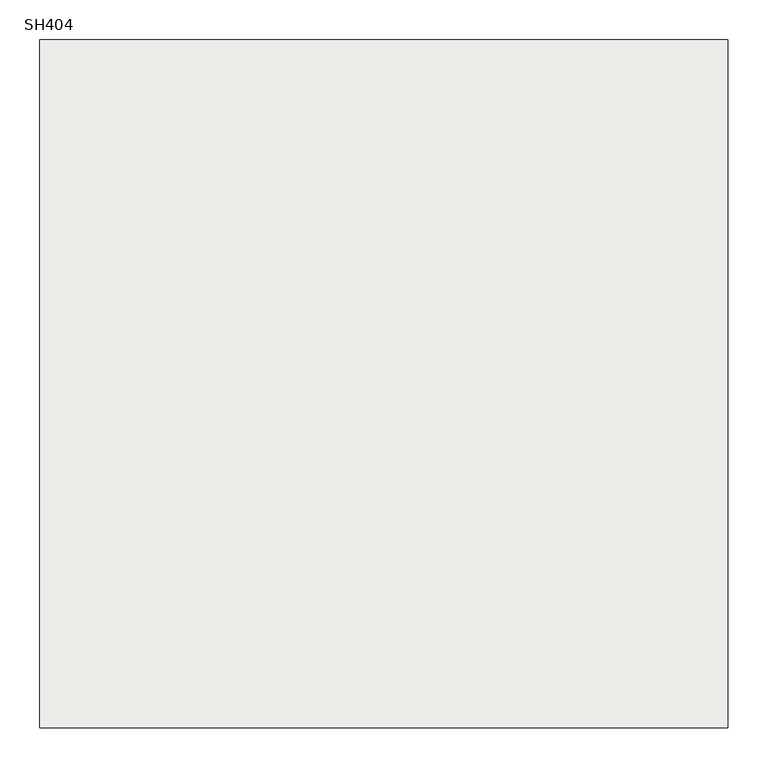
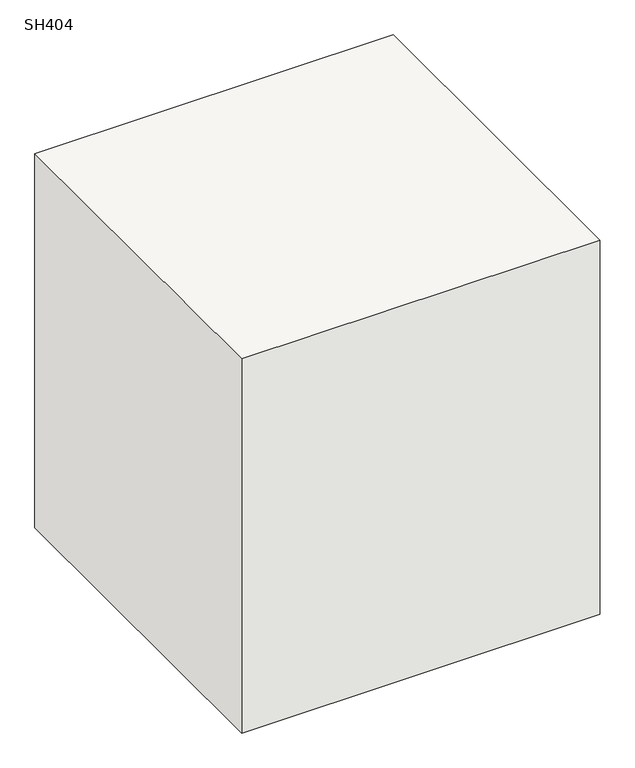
"""IFC4 building model written with IfcOpenShell, lengths in millimetres: slab geometry, 柱形_SH : SH404."""

from ifc_helpers import new_model, si_unit, frame, origin, place, context, project, spatial, polyline, outline, extrude, source, transform, mapped, element, save


def sh404_aaa08fc3(model_context):
    return source(origin(), model_context, "Body", "SweptSolid", [
        extrude(outline(polyline([(430.0, 430.0), (430.0, -430.0), (-430.0, -430.0), (-430.0, 430.0), (430.0, 430.0)])), frame((0.0, 0.0, -950.0), z_axis=(0.0, 0.0, 1.0), x_axis=(1.0, 0.0, 0.0)), (0.0, 0.0, 1.0), 950.0),
    ])


if __name__ == "__main__":
    model = new_model("IFC4")
    model_context = context("Model", 3, world=origin())
    ifc_project = project(units=[si_unit("LENGTHUNIT", "METRE", prefix="MILLI")], contexts=[model_context])
    site = spatial("IfcSite", under=ifc_project)
    building = spatial("IfcBuilding", under=site)
    placement = place(None, origin())
    sh404_shape = sh404_aaa08fc3(model_context)
    element("IfcSlab", 1, ObjectType="柱形_SH : SH404", at=placement, inside=building, context=model_context, shape_type="MappedRepresentation", body=[
        mapped(sh404_shape, transform((0.0, 0.0, 0.0), x_axis=(1.0, 0.0, 0.0), y_axis=(0.0, 1.0, 0.0), z_axis=(0.0, 0.0, 1.0))),
    ])
    save(model, "model.ifc")
